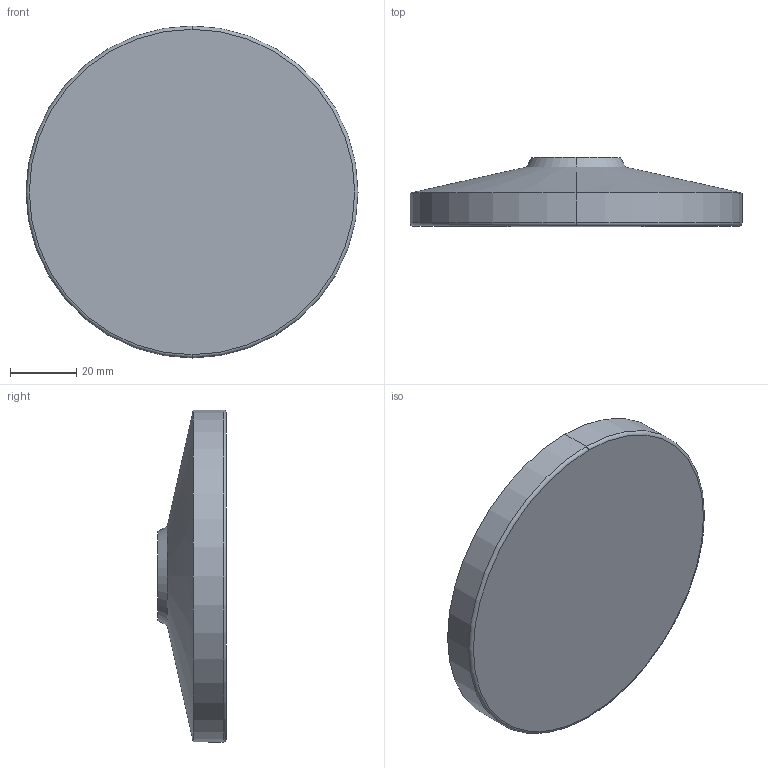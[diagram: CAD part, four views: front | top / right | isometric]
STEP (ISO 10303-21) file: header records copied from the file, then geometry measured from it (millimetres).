
FILE_DESCRIPTION (( 'STEP AP214' ), '1' );
FILE_NAME ('6311.3-100-20-N.step', '2023-04-17T05:34:38', ( '' ), ( '' ), 'SwSTEP 2.0', 'SolidWorks 2022', '' );
FILE_SCHEMA (( 'AUTOMOTIVE_DESIGN' ));
Length unit declared in the file: millimetre
Products named in the file (1): 6311.3-100-20-N
Bounding box: 100 x 20.7 x 100 mm (x, y, z)
Volume: 107306.8 mm3; surface area: 20492.3 mm2
Topology: 1 solids, 1 shells, 30 faces, 67 edges, 42 vertices
Faces by surface type: cylinder 12, torus 6, plane 6, cone 4, sphere 2
Entity records: 990 total; most frequent: CARTESIAN_POINT 176, DIRECTION 169, ORIENTED_EDGE 134, AXIS2_PLACEMENT_3D 75, EDGE_CURVE 67, CIRCLE 44, VERTEX_POINT 42, EDGE_LOOP 33
